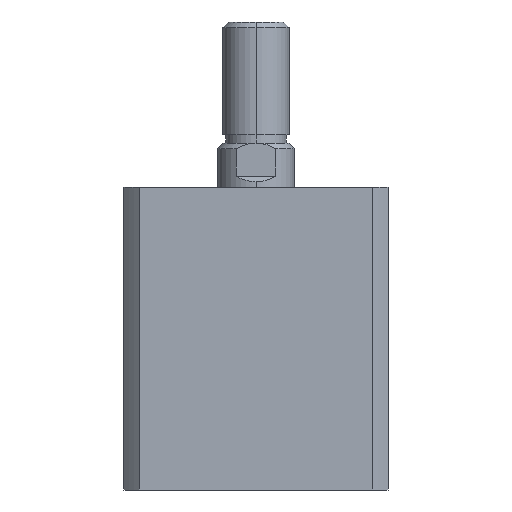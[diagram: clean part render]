
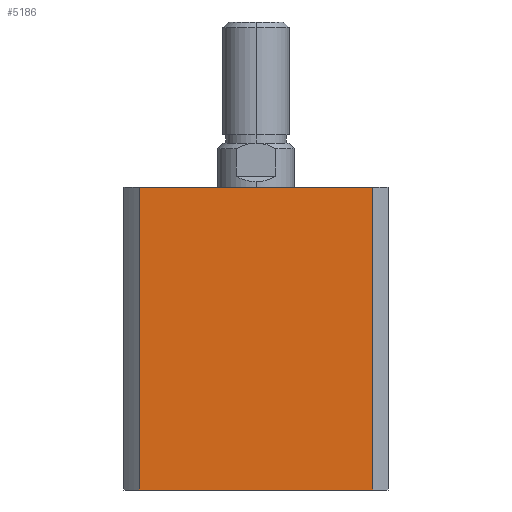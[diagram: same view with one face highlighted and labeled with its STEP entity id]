
A CAD part, left-side view. The second image highlights one B-rep face of the part: STEP entity #5186.
In plain terms, the highlighted planar face has unit normal (-1, 0, 0).
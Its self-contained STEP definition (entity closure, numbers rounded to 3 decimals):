
#309 = VERTEX_POINT ( 'NONE', #4108 ) ;
#329 = VERTEX_POINT ( 'NONE', #4082 ) ;
#434 = EDGE_LOOP ( 'NONE', ( #2435, #2434, #2433, #2432 ) ) ;
#505 = VERTEX_POINT ( 'NONE', #4006 ) ;
#507 = VERTEX_POINT ( 'NONE', #4004 ) ;
#1022 = CARTESIAN_POINT ( 'NONE',  ( -24., 0., 55. ) ) ;
#1026 = PLANE ( 'NONE',  #4334 ) ;
#1028 = DIRECTION ( 'NONE',  ( 1., 0., 0. ) ) ;
#1029 = DIRECTION ( 'NONE',  ( 0., 0., -1. ) ) ;
#1922 = CARTESIAN_POINT ( 'NONE',  ( -24., 0., 55. ) ) ;
#1923 = DIRECTION ( 'NONE',  ( 0., -1., 0. ) ) ;
#2039 = CARTESIAN_POINT ( 'NONE',  ( -24., 0., 0. ) ) ;
#2040 = DIRECTION ( 'NONE',  ( 0., -1., 0. ) ) ;
#2044 = CARTESIAN_POINT ( 'NONE',  ( -24., 21.166, 55. ) ) ;
#2045 = CARTESIAN_POINT ( 'NONE',  ( -24., -21.166, 55. ) ) ;
#2050 = DIRECTION ( 'NONE',  ( 0., 0., -1. ) ) ;
#2052 = DIRECTION ( 'NONE',  ( 0., 0., -1. ) ) ;
#2432 = ORIENTED_EDGE ( 'NONE', *, *, #3397, .T. ) ;
#2433 = ORIENTED_EDGE ( 'NONE', *, *, #3358, .F. ) ;
#2434 = ORIENTED_EDGE ( 'NONE', *, *, #3396, .F. ) ;
#2435 = ORIENTED_EDGE ( 'NONE', *, *, #3395, .T. ) ;
#2644 = LINE ( 'NONE', #1922, #2646 ) ;
#2646 = VECTOR ( 'NONE', #1923, 1000. ) ;
#2650 = LINE ( 'NONE', #2045, #2674 ) ;
#2670 = LINE ( 'NONE', #2039, #2672 ) ;
#2671 = LINE ( 'NONE', #2044, #2676 ) ;
#2672 = VECTOR ( 'NONE', #2040, 1000. ) ;
#2674 = VECTOR ( 'NONE', #2050, 1000. ) ;
#2676 = VECTOR ( 'NONE', #2052, 1000. ) ;
#3358 = EDGE_CURVE ( 'NONE', #329, #309, #2644, .T. ) ;
#3395 = EDGE_CURVE ( 'NONE', #505, #507, #2670, .T. ) ;
#3396 = EDGE_CURVE ( 'NONE', #309, #507, #2650, .T. ) ;
#3397 = EDGE_CURVE ( 'NONE', #329, #505, #2671, .T. ) ;
#3554 = FACE_OUTER_BOUND ( 'NONE', #434, .T. ) ;
#4004 = CARTESIAN_POINT ( 'NONE',  ( -24., -21.166, 0. ) ) ;
#4006 = CARTESIAN_POINT ( 'NONE',  ( -24., 21.166, 0. ) ) ;
#4082 = CARTESIAN_POINT ( 'NONE',  ( -24., 21.166, 55. ) ) ;
#4108 = CARTESIAN_POINT ( 'NONE',  ( -24., -21.166, 55. ) ) ;
#4334 = AXIS2_PLACEMENT_3D ( 'NONE', #1022, #1028, #1029 ) ;
#5186 = ADVANCED_FACE ( 'NONE', ( #3554 ), #1026, .F. ) ;
